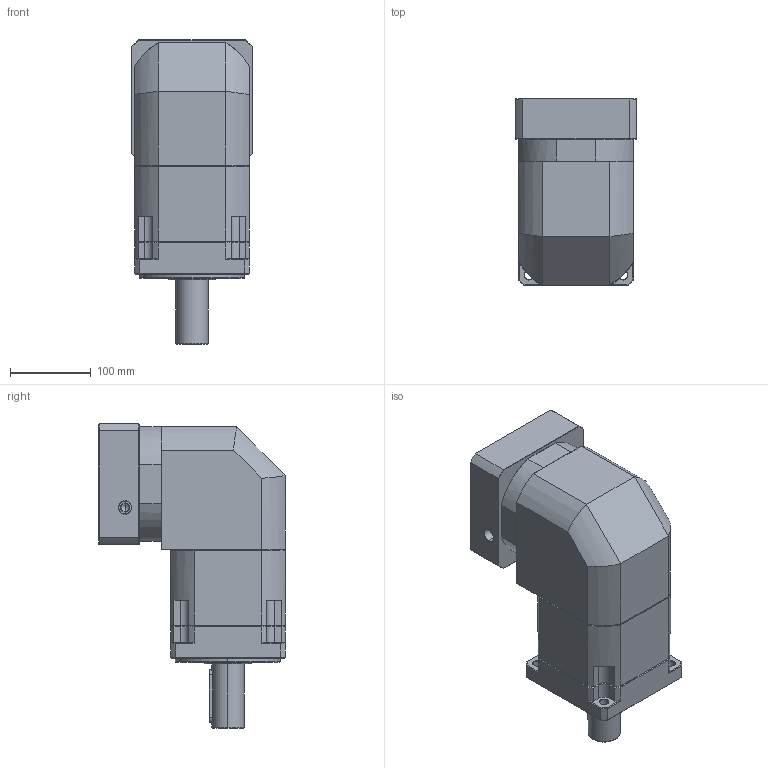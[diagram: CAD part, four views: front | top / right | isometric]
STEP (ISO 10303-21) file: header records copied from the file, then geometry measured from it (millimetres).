
FILE_DESCRIPTION (( 'STEP AP214' ), '1' );
FILE_NAME ('ZBR142A-D40-L2-P2-28-130-174-M10.step', '2023-09-02T07:12:18', ( '' ), ( '' ), 'SwSTEP 2.0', 'SolidWorks 2016', '' );
FILE_SCHEMA (( 'AUTOMOTIVE_DESIGN' ));
Length unit declared in the file: millimetre
Products named in the file (1): ZBR142A-D40-L2-P2-28-130-174-M10
Bounding box: 150 x 231 x 377.7 mm (x, y, z)
Volume: 6263469.5 mm3; surface area: 420134 mm2
Topology: 6 solids, 6 shells, 2313 faces, 6106 edges, 3900 vertices
Faces by surface type: plane 1120, cylinder 424, bspline 415, cone 332, torus 22
Entity records: 130631 total; most frequent: CARTESIAN_POINT 51405, ORIENTED_EDGE 12152, DIRECTION 9577, EDGE_CURVE 6076, LINE 3903, VECTOR 3903, VERTEX_POINT 3900, AXIS2_PLACEMENT_3D 2837
